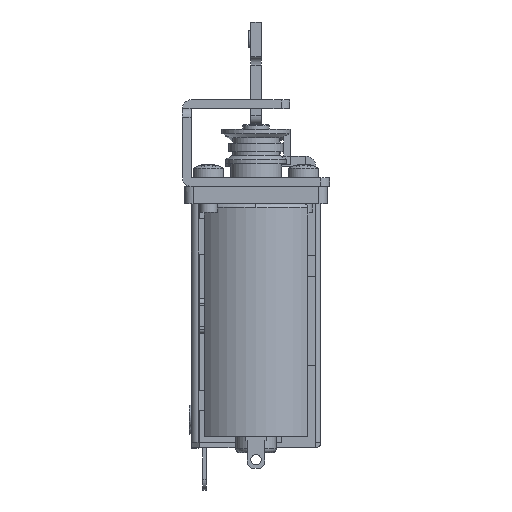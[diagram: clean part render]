
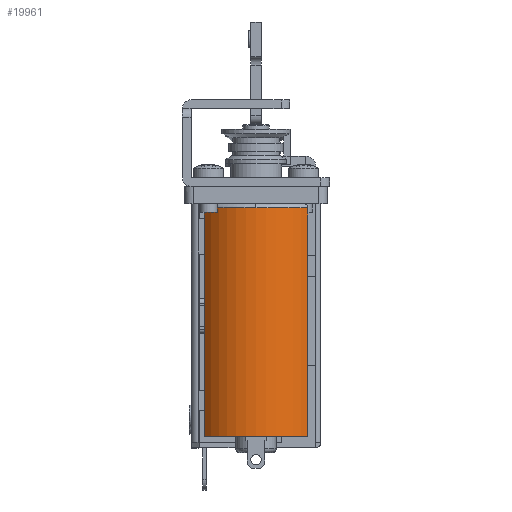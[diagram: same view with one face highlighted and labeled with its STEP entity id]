
A CAD part, left-side view. The second image highlights one B-rep face of the part: STEP entity #19961.
In plain terms, the highlighted cylindrical face has radius 7.75 mm (diameter 15.5 mm), a partial arc.
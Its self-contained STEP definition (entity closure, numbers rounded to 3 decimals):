
#19421 = VERTEX_POINT('',#19422);
#19422 = CARTESIAN_POINT('',(-84.25,0.,-12.5));
#19429 = EDGE_CURVE('',#19421,#19430,#19432,.T.);
#19430 = VERTEX_POINT('',#19431);
#19431 = CARTESIAN_POINT('',(-81.405,-6.,-12.5));
#19432 = CIRCLE('',#19433,7.75);
#19433 = AXIS2_PLACEMENT_3D('',#19434,#19435,#19436);
#19434 = CARTESIAN_POINT('',(-76.5,0.,-12.5));
#19435 = DIRECTION('',(0.,0.,1.));
#19436 = DIRECTION('',(-1.,0.,0.));
#19550 = VERTEX_POINT('',#19551);
#19551 = CARTESIAN_POINT('',(-81.405,6.,-12.5));
#19587 = EDGE_CURVE('',#19550,#19421,#19588,.T.);
#19588 = CIRCLE('',#19589,7.75);
#19589 = AXIS2_PLACEMENT_3D('',#19590,#19591,#19592);
#19590 = CARTESIAN_POINT('',(-76.5,0.,-12.5));
#19591 = DIRECTION('',(0.,0.,1.));
#19592 = DIRECTION('',(-0.633,0.774,0.));
#19961 = ADVANCED_FACE('',(#19962),#19998,.T.);
#19962 = FACE_BOUND('',#19963,.T.);
#19963 = EDGE_LOOP('',(#19964,#19975,#19984,#19990,#19991,#19992));
#19964 = ORIENTED_EDGE('',*,*,#19965,.T.);
#19965 = EDGE_CURVE('',#19966,#19968,#19970,.T.);
#19966 = VERTEX_POINT('',#19967);
#19967 = CARTESIAN_POINT('',(-81.405,6.,-38.9));
#19968 = VERTEX_POINT('',#19969);
#19969 = CARTESIAN_POINT('',(-84.25,0.,-38.9));
#19970 = CIRCLE('',#19971,7.75);
#19971 = AXIS2_PLACEMENT_3D('',#19972,#19973,#19974);
#19972 = CARTESIAN_POINT('',(-76.5,0.,-38.9));
#19973 = DIRECTION('',(0.,0.,1.));
#19974 = DIRECTION('',(-1.,0.,0.));
#19975 = ORIENTED_EDGE('',*,*,#19976,.T.);
#19976 = EDGE_CURVE('',#19968,#19977,#19979,.T.);
#19977 = VERTEX_POINT('',#19978);
#19978 = CARTESIAN_POINT('',(-81.405,-6.,-38.9));
#19979 = CIRCLE('',#19980,7.75);
#19980 = AXIS2_PLACEMENT_3D('',#19981,#19982,#19983);
#19981 = CARTESIAN_POINT('',(-76.5,0.,-38.9));
#19982 = DIRECTION('',(0.,0.,1.));
#19983 = DIRECTION('',(-1.,0.,0.));
#19984 = ORIENTED_EDGE('',*,*,#19985,.T.);
#19985 = EDGE_CURVE('',#19977,#19430,#19986,.T.);
#19986 = LINE('',#19987,#19988);
#19987 = CARTESIAN_POINT('',(-81.405,-6.,-12.));
#19988 = VECTOR('',#19989,1.);
#19989 = DIRECTION('',(0.,0.,1.));
#19990 = ORIENTED_EDGE('',*,*,#19429,.F.);
#19991 = ORIENTED_EDGE('',*,*,#19587,.F.);
#19992 = ORIENTED_EDGE('',*,*,#19993,.F.);
#19993 = EDGE_CURVE('',#19966,#19550,#19994,.T.);
#19994 = LINE('',#19995,#19996);
#19995 = CARTESIAN_POINT('',(-81.405,6.,-12.));
#19996 = VECTOR('',#19997,1.);
#19997 = DIRECTION('',(0.,0.,1.));
#19998 = CYLINDRICAL_SURFACE('',#19999,7.75);
#19999 = AXIS2_PLACEMENT_3D('',#20000,#20001,#20002);
#20000 = CARTESIAN_POINT('',(-76.5,0.,-12.));
#20001 = DIRECTION('',(0.,0.,1.));
#20002 = DIRECTION('',(-1.,0.,0.));
